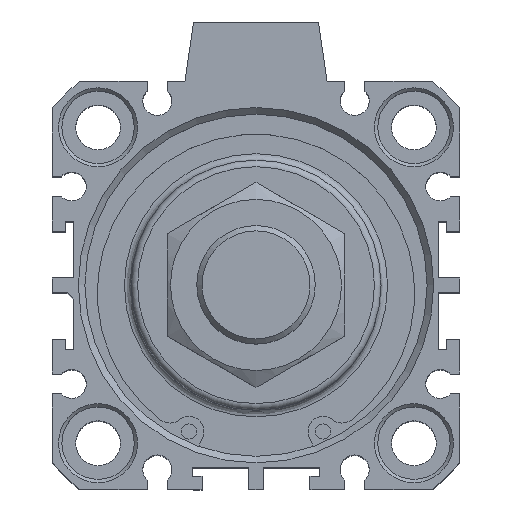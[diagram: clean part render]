
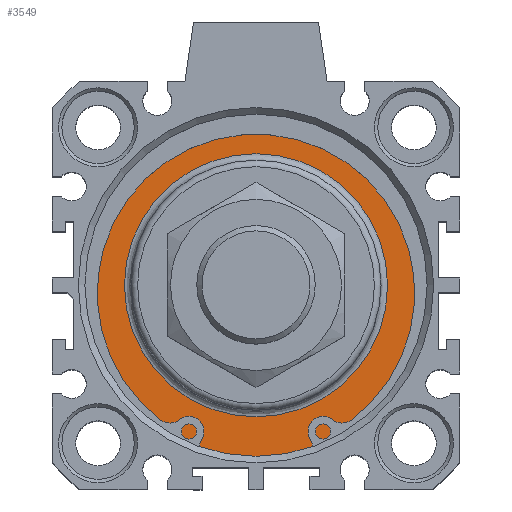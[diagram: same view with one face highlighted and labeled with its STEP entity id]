
A CAD part, top view. The second image highlights one B-rep face of the part: STEP entity #3549.
In plain terms, the highlighted planar face has unit normal (0, 0, 1).
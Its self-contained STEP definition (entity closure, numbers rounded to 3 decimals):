
#3498=CARTESIAN_POINT('',(-0.12,20.837,64.3));
#3499=VERTEX_POINT('',#3498);
#3500=CARTESIAN_POINT('',(-0.12,0.837,64.3));
#3501=DIRECTION('',(0.0,0.0,1.0));
#3502=DIRECTION('',(0.0,-1.0,0.0));
#3503=AXIS2_PLACEMENT_3D('',#3500,#3501,#3502);
#3504=CIRCLE('',#3503,20.0);
#3505=EDGE_CURVE('',#3499,#3499,#3504,.T.);
#3530=CARTESIAN_POINT('',(-0.12,23.337,64.3));
#3531=DIRECTION('',(0.0,0.0,1.0));
#3532=DIRECTION('',(1.0,0.0,0.0));
#3533=AXIS2_PLACEMENT_3D('',#3530,#3531,#3532);
#3534=PLANE('',#3533);
#3535=CARTESIAN_POINT('',(-0.12,26.837,64.3));
#3536=VERTEX_POINT('',#3535);
#3537=CARTESIAN_POINT('',(-0.12,0.837,64.3));
#3538=DIRECTION('',(0.0,0.0,-1.0));
#3539=DIRECTION('',(0.0,1.0,0.0));
#3540=AXIS2_PLACEMENT_3D('',#3537,#3538,#3539);
#3541=CIRCLE('',#3540,26.);
#3542=EDGE_CURVE('',#3536,#3536,#3541,.T.);
#3543=ORIENTED_EDGE('',*,*,#3542,.F.);
#3544=EDGE_LOOP('',(#3543));
#3545=FACE_OUTER_BOUND('',#3544,.T.);
#3546=ORIENTED_EDGE('',*,*,#3505,.F.);
#3547=EDGE_LOOP('',(#3546));
#3548=FACE_BOUND('',#3547,.T.);
#3549=ADVANCED_FACE('',(#3545,#3548),#3534,.T.);
